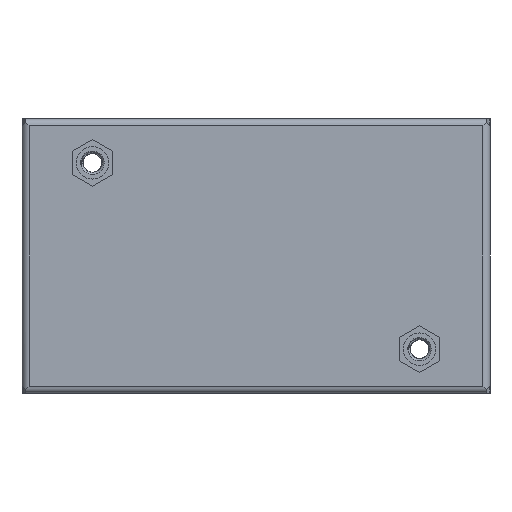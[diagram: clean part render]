
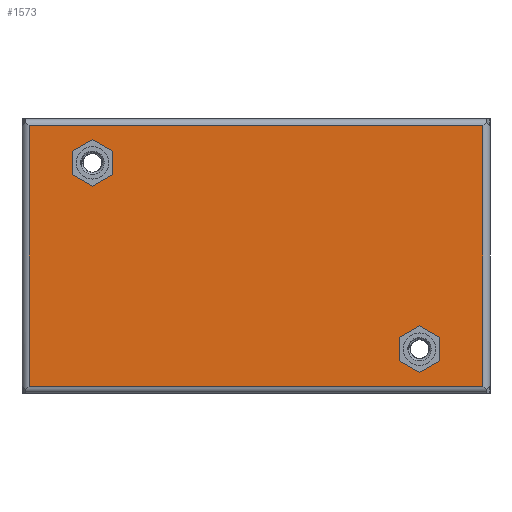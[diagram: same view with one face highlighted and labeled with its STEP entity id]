
A CAD part, front view. The second image highlights one B-rep face of the part: STEP entity #1573.
In plain terms, the highlighted planar face has unit normal (0, -1, 0).
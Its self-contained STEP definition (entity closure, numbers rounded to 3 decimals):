
#61 = DIRECTION ( 'NONE',  ( 0., 0., -1. ) ) ;
#139 = DIRECTION ( 'NONE',  ( 0.866, 0., 0.5 ) ) ;
#237 = VECTOR ( 'NONE', #3531, 1000. ) ;
#363 = DIRECTION ( 'NONE',  ( -0.866, 0., 0.5 ) ) ;
#429 = EDGE_CURVE ( 'NONE', #2836, #2143, #8019, .T. ) ;
#434 = CARTESIAN_POINT ( 'NONE',  ( -18.175, -0.8, 7.752 ) ) ;
#438 = DIRECTION ( 'NONE',  ( -0.866, 0., -0.5 ) ) ;
#488 = LINE ( 'NONE', #3115, #7420 ) ;
#532 = ORIENTED_EDGE ( 'NONE', *, *, #4162, .T. ) ;
#534 = VERTEX_POINT ( 'NONE', #7428 ) ;
#564 = LINE ( 'NONE', #6925, #1558 ) ;
#573 = DIRECTION ( 'NONE',  ( -0.866, 0., 0.5 ) ) ;
#671 = VERTEX_POINT ( 'NONE', #6767 ) ;
#676 = LINE ( 'NONE', #7855, #4704 ) ;
#707 = DIRECTION ( 'NONE',  ( 0., 0., 1. ) ) ;
#875 = VECTOR ( 'NONE', #7480, 1000. ) ;
#1031 = CARTESIAN_POINT ( 'NONE',  ( 18.175, -0.8, -12.948 ) ) ;
#1050 = VECTOR ( 'NONE', #7383, 1000. ) ;
#1064 = VERTEX_POINT ( 'NONE', #4630 ) ;
#1169 = CARTESIAN_POINT ( 'NONE',  ( 18.175, -0.8, -7.752 ) ) ;
#1201 = VECTOR ( 'NONE', #3764, 1000. ) ;
#1340 = ORIENTED_EDGE ( 'NONE', *, *, #3235, .T. ) ;
#1533 = AXIS2_PLACEMENT_3D ( 'NONE', #5595, #8118, #5681 ) ;
#1540 = CARTESIAN_POINT ( 'NONE',  ( -25.2, -0.8, -14.45 ) ) ;
#1558 = VECTOR ( 'NONE', #6354, 1000. ) ;
#1573 = ADVANCED_FACE ( 'NONE', ( #4307, #7591, #6315 ), #3818, .F. ) ;
#1659 = EDGE_LOOP ( 'NONE', ( #2370, #2207, #1340, #3499, #2805, #3361 ) ) ;
#1700 = ORIENTED_EDGE ( 'NONE', *, *, #2132, .T. ) ;
#1726 = VERTEX_POINT ( 'NONE', #4056 ) ;
#1784 = CARTESIAN_POINT ( 'NONE',  ( -18.175, -0.8, 12.948 ) ) ;
#1796 = LINE ( 'NONE', #1838, #3563 ) ;
#1838 = CARTESIAN_POINT ( 'NONE',  ( -20.425, -0.8, 11.649 ) ) ;
#1871 = VERTEX_POINT ( 'NONE', #7278 ) ;
#1888 = LINE ( 'NONE', #6947, #875 ) ;
#2132 = EDGE_CURVE ( 'NONE', #2274, #5761, #1888, .T. ) ;
#2143 = VERTEX_POINT ( 'NONE', #5034 ) ;
#2207 = ORIENTED_EDGE ( 'NONE', *, *, #7042, .T. ) ;
#2253 = VECTOR ( 'NONE', #139, 1000. ) ;
#2274 = VERTEX_POINT ( 'NONE', #8226 ) ;
#2293 = CARTESIAN_POINT ( 'NONE',  ( -15.925, -0.8, 9.051 ) ) ;
#2370 = ORIENTED_EDGE ( 'NONE', *, *, #3455, .T. ) ;
#2461 = VECTOR ( 'NONE', #707, 1000. ) ;
#2737 = EDGE_CURVE ( 'NONE', #1064, #5505, #676, .T. ) ;
#2805 = ORIENTED_EDGE ( 'NONE', *, *, #7482, .T. ) ;
#2836 = VERTEX_POINT ( 'NONE', #7269 ) ;
#2955 = LINE ( 'NONE', #2293, #237 ) ;
#2991 = CARTESIAN_POINT ( 'NONE',  ( 15.925, -0.8, -11.649 ) ) ;
#3016 = ORIENTED_EDGE ( 'NONE', *, *, #6930, .T. ) ;
#3051 = LINE ( 'NONE', #5079, #1201 ) ;
#3115 = CARTESIAN_POINT ( 'NONE',  ( -18.175, -0.8, 7.752 ) ) ;
#3189 = VECTOR ( 'NONE', #6190, 1000. ) ;
#3231 = VERTEX_POINT ( 'NONE', #7059 ) ;
#3235 = EDGE_CURVE ( 'NONE', #6073, #2836, #7102, .T. ) ;
#3341 = EDGE_CURVE ( 'NONE', #7148, #671, #5112, .T. ) ;
#3361 = ORIENTED_EDGE ( 'NONE', *, *, #2737, .T. ) ;
#3383 = ORIENTED_EDGE ( 'NONE', *, *, #6856, .T. ) ;
#3455 = EDGE_CURVE ( 'NONE', #5505, #3231, #6410, .T. ) ;
#3494 = VECTOR ( 'NONE', #5614, 1000. ) ;
#3499 = ORIENTED_EDGE ( 'NONE', *, *, #429, .T. ) ;
#3531 = DIRECTION ( 'NONE',  ( -0.866, 0., -0.5 ) ) ;
#3563 = VECTOR ( 'NONE', #3757, 1000. ) ;
#3658 = LINE ( 'NONE', #3821, #3189 ) ;
#3757 = DIRECTION ( 'NONE',  ( 0.866, 0., 0.5 ) ) ;
#3764 = DIRECTION ( 'NONE',  ( 0., 0., -1. ) ) ;
#3815 = CARTESIAN_POINT ( 'NONE',  ( -15.925, -0.8, 11.649 ) ) ;
#3818 = PLANE ( 'NONE',  #1533 ) ;
#3821 = CARTESIAN_POINT ( 'NONE',  ( -15.925, -0.8, 11.649 ) ) ;
#3906 = CARTESIAN_POINT ( 'NONE',  ( 18.175, -0.8, -7.752 ) ) ;
#4056 = CARTESIAN_POINT ( 'NONE',  ( -25.2, -0.8, 14.45 ) ) ;
#4162 = EDGE_CURVE ( 'NONE', #1726, #7392, #3051, .T. ) ;
#4307 = FACE_BOUND ( 'NONE', #1659, .T. ) ;
#4389 = ORIENTED_EDGE ( 'NONE', *, *, #6183, .T. ) ;
#4444 = ORIENTED_EDGE ( 'NONE', *, *, #6882, .T. ) ;
#4578 = CARTESIAN_POINT ( 'NONE',  ( -20.425, -0.8, 11.649 ) ) ;
#4630 = CARTESIAN_POINT ( 'NONE',  ( 18.175, -0.8, -12.948 ) ) ;
#4697 = ORIENTED_EDGE ( 'NONE', *, *, #7703, .T. ) ;
#4704 = VECTOR ( 'NONE', #363, 1000. ) ;
#4873 = VERTEX_POINT ( 'NONE', #3815 ) ;
#4935 = ORIENTED_EDGE ( 'NONE', *, *, #6685, .T. ) ;
#4996 = EDGE_LOOP ( 'NONE', ( #4935, #3383, #1700, #4389, #3016, #4444 ) ) ;
#5014 = DIRECTION ( 'NONE',  ( 0.866, 0., -0.5 ) ) ;
#5034 = CARTESIAN_POINT ( 'NONE',  ( 20.425, -0.8, -11.649 ) ) ;
#5079 = CARTESIAN_POINT ( 'NONE',  ( -25.2, -0.8, 14.45 ) ) ;
#5112 = LINE ( 'NONE', #8174, #5770 ) ;
#5192 = CARTESIAN_POINT ( 'NONE',  ( 25.2, -0.8, 14.45 ) ) ;
#5196 = CARTESIAN_POINT ( 'NONE',  ( 20.425, -0.8, -9.051 ) ) ;
#5505 = VERTEX_POINT ( 'NONE', #2991 ) ;
#5568 = VERTEX_POINT ( 'NONE', #434 ) ;
#5595 = CARTESIAN_POINT ( 'NONE',  ( -25.2, -0.8, 14.45 ) ) ;
#5614 = DIRECTION ( 'NONE',  ( 0., 0., -1. ) ) ;
#5681 = DIRECTION ( 'NONE',  ( 1., 0., 0. ) ) ;
#5692 = CARTESIAN_POINT ( 'NONE',  ( 15.925, -0.8, -9.051 ) ) ;
#5761 = VERTEX_POINT ( 'NONE', #4578 ) ;
#5770 = VECTOR ( 'NONE', #61, 1000. ) ;
#5998 = ORIENTED_EDGE ( 'NONE', *, *, #3341, .F. ) ;
#6073 = VERTEX_POINT ( 'NONE', #1169 ) ;
#6183 = EDGE_CURVE ( 'NONE', #5761, #1871, #1796, .T. ) ;
#6190 = DIRECTION ( 'NONE',  ( 0., 0., -1. ) ) ;
#6215 = EDGE_LOOP ( 'NONE', ( #4697, #5998, #6254, #532 ) ) ;
#6254 = ORIENTED_EDGE ( 'NONE', *, *, #6350, .F. ) ;
#6315 = FACE_OUTER_BOUND ( 'NONE', #6215, .T. ) ;
#6350 = EDGE_CURVE ( 'NONE', #1726, #7148, #6981, .T. ) ;
#6354 = DIRECTION ( 'NONE',  ( 1., 0., 0. ) ) ;
#6361 = LINE ( 'NONE', #3906, #2253 ) ;
#6410 = LINE ( 'NONE', #5692, #2461 ) ;
#6685 = EDGE_CURVE ( 'NONE', #534, #5568, #2955, .T. ) ;
#6765 = LINE ( 'NONE', #1031, #6986 ) ;
#6767 = CARTESIAN_POINT ( 'NONE',  ( 25.2, -0.8, -14.45 ) ) ;
#6856 = EDGE_CURVE ( 'NONE', #5568, #2274, #488, .T. ) ;
#6882 = EDGE_CURVE ( 'NONE', #4873, #534, #3658, .T. ) ;
#6925 = CARTESIAN_POINT ( 'NONE',  ( -25.2, -0.8, -14.45 ) ) ;
#6930 = EDGE_CURVE ( 'NONE', #1871, #4873, #7640, .T. ) ;
#6947 = CARTESIAN_POINT ( 'NONE',  ( -20.425, -0.8, 9.051 ) ) ;
#6981 = LINE ( 'NONE', #8006, #1050 ) ;
#6986 = VECTOR ( 'NONE', #438, 1000. ) ;
#7042 = EDGE_CURVE ( 'NONE', #3231, #6073, #6361, .T. ) ;
#7059 = CARTESIAN_POINT ( 'NONE',  ( 15.925, -0.8, -9.051 ) ) ;
#7102 = LINE ( 'NONE', #5196, #7489 ) ;
#7148 = VERTEX_POINT ( 'NONE', #5192 ) ;
#7269 = CARTESIAN_POINT ( 'NONE',  ( 20.425, -0.8, -9.051 ) ) ;
#7278 = CARTESIAN_POINT ( 'NONE',  ( -18.175, -0.8, 12.948 ) ) ;
#7383 = DIRECTION ( 'NONE',  ( 1., 0., 0. ) ) ;
#7392 = VERTEX_POINT ( 'NONE', #1540 ) ;
#7420 = VECTOR ( 'NONE', #573, 1000. ) ;
#7428 = CARTESIAN_POINT ( 'NONE',  ( -15.925, -0.8, 9.051 ) ) ;
#7478 = CARTESIAN_POINT ( 'NONE',  ( 20.425, -0.8, -11.649 ) ) ;
#7480 = DIRECTION ( 'NONE',  ( 0., 0., 1. ) ) ;
#7482 = EDGE_CURVE ( 'NONE', #2143, #1064, #6765, .T. ) ;
#7489 = VECTOR ( 'NONE', #7557, 1000. ) ;
#7557 = DIRECTION ( 'NONE',  ( 0.866, 0., -0.5 ) ) ;
#7591 = FACE_BOUND ( 'NONE', #4996, .T. ) ;
#7640 = LINE ( 'NONE', #1784, #7833 ) ;
#7703 = EDGE_CURVE ( 'NONE', #7392, #671, #564, .T. ) ;
#7833 = VECTOR ( 'NONE', #5014, 1000. ) ;
#7855 = CARTESIAN_POINT ( 'NONE',  ( 15.925, -0.8, -11.649 ) ) ;
#8006 = CARTESIAN_POINT ( 'NONE',  ( -25.2, -0.8, 14.45 ) ) ;
#8019 = LINE ( 'NONE', #7478, #3494 ) ;
#8118 = DIRECTION ( 'NONE',  ( 0., 1., 0. ) ) ;
#8174 = CARTESIAN_POINT ( 'NONE',  ( 25.2, -0.8, 14.45 ) ) ;
#8226 = CARTESIAN_POINT ( 'NONE',  ( -20.425, -0.8, 9.051 ) ) ;
